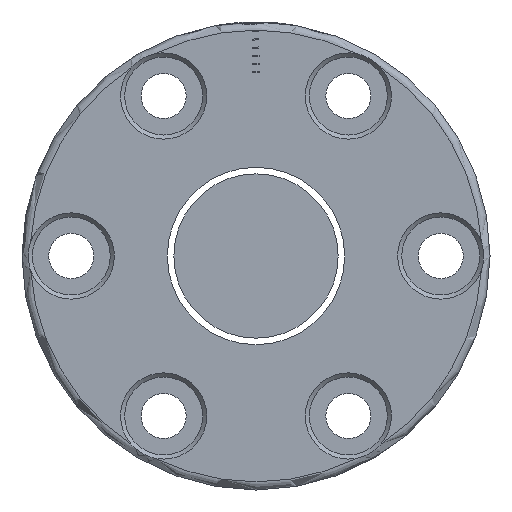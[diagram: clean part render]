
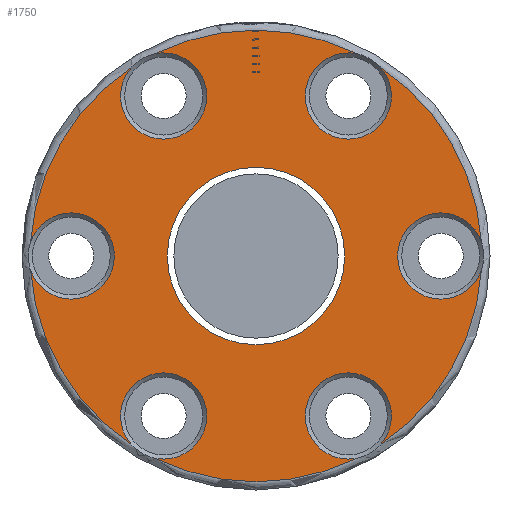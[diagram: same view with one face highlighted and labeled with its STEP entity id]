
A CAD part, left-side view. The second image highlights one B-rep face of the part: STEP entity #1750.
In plain terms, the highlighted planar face has unit normal (-1, 0, 0).
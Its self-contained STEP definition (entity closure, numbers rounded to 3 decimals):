
#16 = AXIS2_PLACEMENT_3D ( 'NONE', #2174, #2900, #1489 ) ;
#17 = ORIENTED_EDGE ( 'NONE', *, *, #1906, .T. ) ;
#87 = CARTESIAN_POINT ( 'NONE',  ( -46., 0., 0. ) ) ;
#126 = EDGE_CURVE ( 'NONE', #1499, #2145, #2001, .T. ) ;
#132 = FACE_OUTER_BOUND ( 'NONE', #847, .T. ) ;
#147 = PLANE ( 'NONE',  #2429 ) ;
#164 = DIRECTION ( 'NONE',  ( 1., 0., 0. ) ) ;
#168 = DIRECTION ( 'NONE',  ( 0., 0., 1. ) ) ;
#217 = EDGE_CURVE ( 'NONE', #1021, #2401, #964, .T. ) ;
#250 = AXIS2_PLACEMENT_3D ( 'NONE', #630, #1832, #425 ) ;
#317 = CIRCLE ( 'NONE', #16, 27.5 ) ;
#323 = CARTESIAN_POINT ( 'NONE',  ( -46., 12.19, 24.651 ) ) ;
#357 = DIRECTION ( 'NONE',  ( 1., 0., 0. ) ) ;
#368 = DIRECTION ( 'NONE',  ( 0., 0., 1. ) ) ;
#406 = CARTESIAN_POINT ( 'NONE',  ( -46., 0., 0. ) ) ;
#425 = DIRECTION ( 'NONE',  ( 0., 0., -1. ) ) ;
#429 = CARTESIAN_POINT ( 'NONE',  ( -46., 12.19, -24.651 ) ) ;
#431 = CARTESIAN_POINT ( 'NONE',  ( -46., 11.25, -19.486 ) ) ;
#450 = VERTEX_POINT ( 'NONE', #1531 ) ;
#538 = ORIENTED_EDGE ( 'NONE', *, *, #2268, .T. ) ;
#554 = DIRECTION ( 'NONE',  ( 0., 0., 1. ) ) ;
#571 = CIRCLE ( 'NONE', #1699, 27.5 ) ;
#573 = DIRECTION ( 'NONE',  ( 1., 0., 0. ) ) ;
#614 = ORIENTED_EDGE ( 'NONE', *, *, #1027, .T. ) ;
#630 = CARTESIAN_POINT ( 'NONE',  ( -46., 0., 0. ) ) ;
#643 = CARTESIAN_POINT ( 'NONE',  ( -46., 27.443, 1.769 ) ) ;
#652 = AXIS2_PLACEMENT_3D ( 'NONE', #406, #930, #667 ) ;
#667 = DIRECTION ( 'NONE',  ( 0., 0., 1. ) ) ;
#684 = EDGE_LOOP ( 'NONE', ( #2624 ) ) ;
#733 = DIRECTION ( 'NONE',  ( 0., 0., 1. ) ) ;
#750 = CIRCLE ( 'NONE', #2633, 27.5 ) ;
#802 = CIRCLE ( 'NONE', #2531, 5.25 ) ;
#804 = CARTESIAN_POINT ( 'NONE',  ( -46., 22.5, 0. ) ) ;
#847 = EDGE_LOOP ( 'NONE', ( #1211, #1241, #980, #2184, #2802, #2150, #1431, #1626, #538, #614, #17, #1293 ) ) ;
#878 = CARTESIAN_POINT ( 'NONE',  ( -46., -11.25, 19.486 ) ) ;
#890 = DIRECTION ( 'NONE',  ( 0., 0., 1. ) ) ;
#898 = DIRECTION ( 'NONE',  ( 0., 0., 1. ) ) ;
#930 = DIRECTION ( 'NONE',  ( -1., 0., 0. ) ) ;
#964 = CIRCLE ( 'NONE', #2702, 5.25 ) ;
#980 = ORIENTED_EDGE ( 'NONE', *, *, #2493, .T. ) ;
#997 = EDGE_CURVE ( 'NONE', #2818, #1499, #2397, .T. ) ;
#1000 = CIRCLE ( 'NONE', #2789, 5.25 ) ;
#1011 = CARTESIAN_POINT ( 'NONE',  ( -46., -12.19, -24.651 ) ) ;
#1021 = VERTEX_POINT ( 'NONE', #2742 ) ;
#1027 = EDGE_CURVE ( 'NONE', #1911, #1458, #317, .T. ) ;
#1086 = CARTESIAN_POINT ( 'NONE',  ( -46., 0., 0. ) ) ;
#1112 = AXIS2_PLACEMENT_3D ( 'NONE', #3041, #1825, #898 ) ;
#1116 = DIRECTION ( 'NONE',  ( 0., 0., 1. ) ) ;
#1181 = VERTEX_POINT ( 'NONE', #1862 ) ;
#1193 = CIRCLE ( 'NONE', #250, 10.8 ) ;
#1197 = CIRCLE ( 'NONE', #1593, 5.25 ) ;
#1203 = EDGE_CURVE ( 'NONE', #1483, #2887, #571, .T. ) ;
#1211 = ORIENTED_EDGE ( 'NONE', *, *, #2541, .T. ) ;
#1241 = ORIENTED_EDGE ( 'NONE', *, *, #2263, .T. ) ;
#1253 = EDGE_CURVE ( 'NONE', #2401, #2818, #2006, .T. ) ;
#1293 = ORIENTED_EDGE ( 'NONE', *, *, #1203, .T. ) ;
#1314 = FACE_BOUND ( 'NONE', #684, .T. ) ;
#1377 = DIRECTION ( 'NONE',  ( 1., 0., 0. ) ) ;
#1379 = DIRECTION ( 'NONE',  ( 0., 0., 1. ) ) ;
#1431 = ORIENTED_EDGE ( 'NONE', *, *, #997, .T. ) ;
#1458 = VERTEX_POINT ( 'NONE', #1713 ) ;
#1481 = EDGE_CURVE ( 'NONE', #450, #1021, #750, .T. ) ;
#1483 = VERTEX_POINT ( 'NONE', #2979 ) ;
#1489 = DIRECTION ( 'NONE',  ( 0., 0., 1. ) ) ;
#1499 = VERTEX_POINT ( 'NONE', #1761 ) ;
#1515 = DIRECTION ( 'NONE',  ( 0., 0., 1. ) ) ;
#1531 = CARTESIAN_POINT ( 'NONE',  ( -46., 27.443, -1.769 ) ) ;
#1593 = AXIS2_PLACEMENT_3D ( 'NONE', #2949, #573, #1515 ) ;
#1609 = CARTESIAN_POINT ( 'NONE',  ( -46., -27.443, -1.769 ) ) ;
#1620 = CARTESIAN_POINT ( 'NONE',  ( -46., 0., 0. ) ) ;
#1626 = ORIENTED_EDGE ( 'NONE', *, *, #126, .T. ) ;
#1638 = DIRECTION ( 'NONE',  ( 1., 0., 0. ) ) ;
#1699 = AXIS2_PLACEMENT_3D ( 'NONE', #1086, #2030, #168 ) ;
#1713 = CARTESIAN_POINT ( 'NONE',  ( -46., -15.253, 22.882 ) ) ;
#1750 = ADVANCED_FACE ( 'NONE', ( #132, #1314 ), #147, .T. ) ;
#1761 = CARTESIAN_POINT ( 'NONE',  ( -46., -15.253, -22.882 ) ) ;
#1792 = AXIS2_PLACEMENT_3D ( 'NONE', #804, #2731, #368 ) ;
#1817 = CARTESIAN_POINT ( 'NONE',  ( -46., -27.443, 1.769 ) ) ;
#1825 = DIRECTION ( 'NONE',  ( -1., 0., 0. ) ) ;
#1832 = DIRECTION ( 'NONE',  ( 1., 0., 0. ) ) ;
#1852 = AXIS2_PLACEMENT_3D ( 'NONE', #2239, #357, #733 ) ;
#1862 = CARTESIAN_POINT ( 'NONE',  ( -46., 0., -10.8 ) ) ;
#1906 = EDGE_CURVE ( 'NONE', #1458, #1483, #802, .T. ) ;
#1911 = VERTEX_POINT ( 'NONE', #1817 ) ;
#1935 = EDGE_CURVE ( 'NONE', #1181, #1181, #1193, .T. ) ;
#2001 = CIRCLE ( 'NONE', #1112, 27.5 ) ;
#2006 = CIRCLE ( 'NONE', #2106, 27.5 ) ;
#2030 = DIRECTION ( 'NONE',  ( -1., 0., 0. ) ) ;
#2043 = DIRECTION ( 'NONE',  ( 0., 0., 1. ) ) ;
#2059 = DIRECTION ( 'NONE',  ( -1., 0., 0. ) ) ;
#2066 = CARTESIAN_POINT ( 'NONE',  ( -46., -22.5, 0. ) ) ;
#2106 = AXIS2_PLACEMENT_3D ( 'NONE', #1620, #2566, #1116 ) ;
#2145 = VERTEX_POINT ( 'NONE', #1609 ) ;
#2150 = ORIENTED_EDGE ( 'NONE', *, *, #1253, .T. ) ;
#2174 = CARTESIAN_POINT ( 'NONE',  ( -46., 0., 0. ) ) ;
#2184 = ORIENTED_EDGE ( 'NONE', *, *, #1481, .T. ) ;
#2239 = CARTESIAN_POINT ( 'NONE',  ( -46., -11.25, -19.486 ) ) ;
#2263 = EDGE_CURVE ( 'NONE', #2400, #2645, #2954, .T. ) ;
#2268 = EDGE_CURVE ( 'NONE', #2145, #1911, #1000, .T. ) ;
#2291 = CARTESIAN_POINT ( 'NONE',  ( -46., 28.5, 0. ) ) ;
#2325 = DIRECTION ( 'NONE',  ( 0., 0., 1. ) ) ;
#2397 = CIRCLE ( 'NONE', #1852, 5.25 ) ;
#2400 = VERTEX_POINT ( 'NONE', #2554 ) ;
#2401 = VERTEX_POINT ( 'NONE', #429 ) ;
#2429 = AXIS2_PLACEMENT_3D ( 'NONE', #2291, #2059, #2043 ) ;
#2493 = EDGE_CURVE ( 'NONE', #2645, #450, #2532, .T. ) ;
#2531 = AXIS2_PLACEMENT_3D ( 'NONE', #878, #164, #890 ) ;
#2532 = CIRCLE ( 'NONE', #1792, 5.25 ) ;
#2541 = EDGE_CURVE ( 'NONE', #2887, #2400, #1197, .T. ) ;
#2554 = CARTESIAN_POINT ( 'NONE',  ( -46., 15.253, 22.882 ) ) ;
#2566 = DIRECTION ( 'NONE',  ( -1., 0., 0. ) ) ;
#2624 = ORIENTED_EDGE ( 'NONE', *, *, #1935, .T. ) ;
#2633 = AXIS2_PLACEMENT_3D ( 'NONE', #87, #2679, #554 ) ;
#2645 = VERTEX_POINT ( 'NONE', #643 ) ;
#2679 = DIRECTION ( 'NONE',  ( -1., 0., 0. ) ) ;
#2702 = AXIS2_PLACEMENT_3D ( 'NONE', #431, #1377, #2325 ) ;
#2731 = DIRECTION ( 'NONE',  ( 1., 0., 0. ) ) ;
#2742 = CARTESIAN_POINT ( 'NONE',  ( -46., 15.253, -22.882 ) ) ;
#2789 = AXIS2_PLACEMENT_3D ( 'NONE', #2066, #1638, #1379 ) ;
#2802 = ORIENTED_EDGE ( 'NONE', *, *, #217, .T. ) ;
#2818 = VERTEX_POINT ( 'NONE', #1011 ) ;
#2887 = VERTEX_POINT ( 'NONE', #323 ) ;
#2900 = DIRECTION ( 'NONE',  ( -1., 0., 0. ) ) ;
#2949 = CARTESIAN_POINT ( 'NONE',  ( -46., 11.25, 19.486 ) ) ;
#2954 = CIRCLE ( 'NONE', #652, 27.5 ) ;
#2979 = CARTESIAN_POINT ( 'NONE',  ( -46., -12.19, 24.651 ) ) ;
#3041 = CARTESIAN_POINT ( 'NONE',  ( -46., 0., 0. ) ) ;
